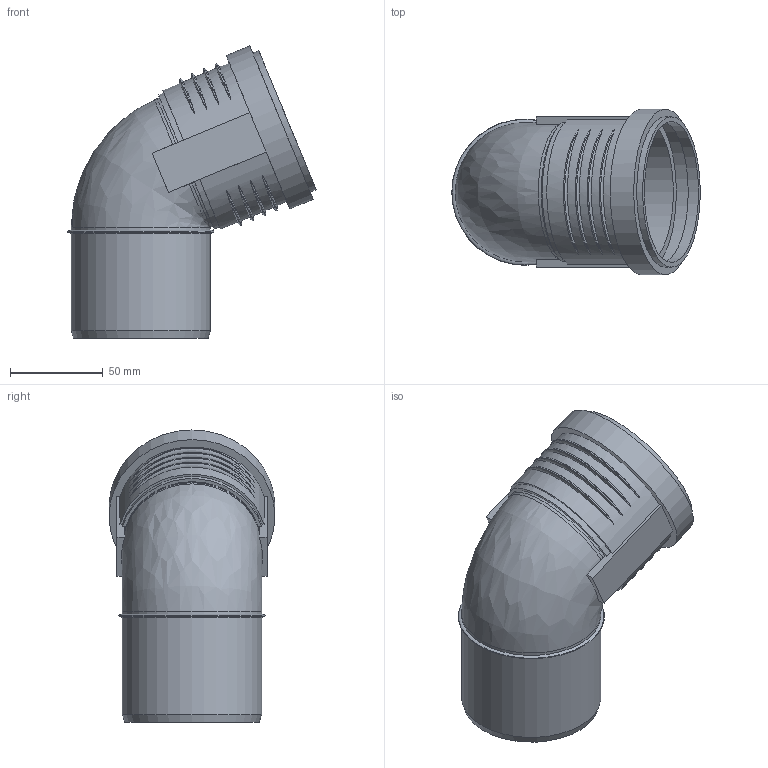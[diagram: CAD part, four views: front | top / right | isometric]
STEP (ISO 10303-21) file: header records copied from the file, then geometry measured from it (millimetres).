
FILE_DESCRIPTION(/* description */ (''),/* implementation_level */ '2;1');
FILE_NAME(/* name */ 'Z:\Geberit\Export\NewStep\390323.stp',/* time_stamp */ '2014-04-02T08:11:38+02:00',/* author */ ('ML'),/* organization */ (''),/* preprocessor_version */ 'ST-DEVELOPER v15.2',/* originating_system */ 'Autodesk Inventor 2014',/* authorisation */ '');
FILE_SCHEMA (('AUTOMOTIVE_DESIGN { 1 0 10303 214 3 1 1 }'));
Length unit declared in the file: millimetre
Products named in the file (3): 861329; 861402; 390323
Bounding box: 134.18 x 89.6 x 157.76 mm (x, y, z)
Volume: 113730.4 mm3; surface area: 90774.5 mm2
Topology: 2 solids, 2 shells, 68 faces, 162 edges, 109 vertices
Faces by surface type: torus 28, plane 19, cylinder 18, cone 2, bspline 1
Full cylindrical faces by diameter (mm): 70 x2, 70.2 x1, 75.2 x4, 76.2 x2, 81.2 x1, 84.6 x1, 89.6 x1
Entity records: 2726 total; most frequent: CARTESIAN_POINT 1150, DIRECTION 290, ORIENTED_EDGE 278, EDGE_CURVE 139, AXIS2_PLACEMENT_3D 127, VERTEX_POINT 106, EDGE_LOOP 103, STYLED_ITEM 70
